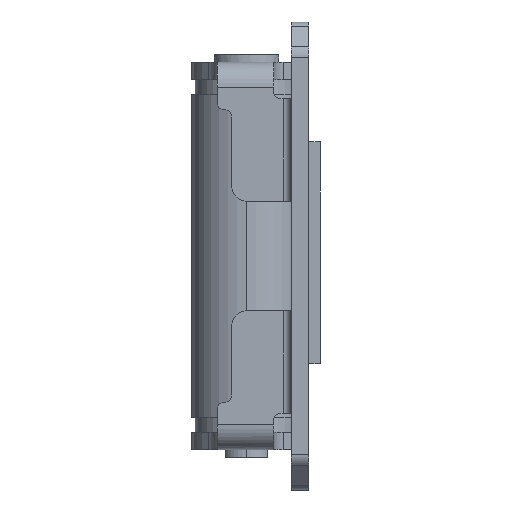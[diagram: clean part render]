
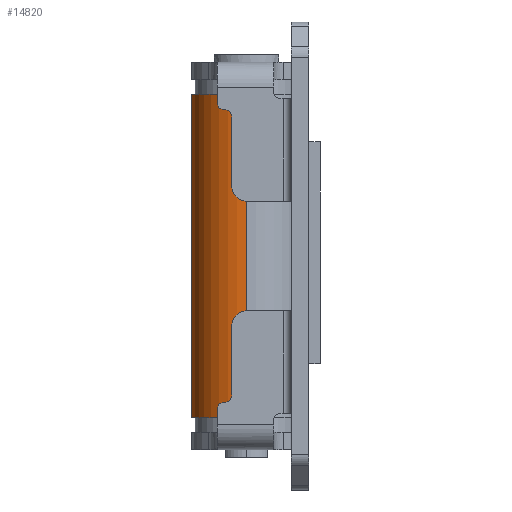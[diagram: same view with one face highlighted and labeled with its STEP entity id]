
A CAD part, left-side view. The second image highlights one B-rep face of the part: STEP entity #14820.
In plain terms, the highlighted cylindrical face has radius 3.75 mm (diameter 7.5 mm), a partial arc.
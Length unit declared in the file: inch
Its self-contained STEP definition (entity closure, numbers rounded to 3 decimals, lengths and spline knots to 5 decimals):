
#92 = CARTESIAN_POINT ( 'NONE',  ( 0.14764, 0.14764, -0.43504 ) ) ;
#248 = DIRECTION ( 'NONE',  ( 0., 0., 1. ) ) ;
#391 = ORIENTED_EDGE ( 'NONE', *, *, #2275, .T. ) ;
#518 = ORIENTED_EDGE ( 'NONE', *, *, #9654, .T. ) ;
#685 = ORIENTED_EDGE ( 'NONE', *, *, #18472, .T. ) ;
#726 = AXIS2_PLACEMENT_3D ( 'NONE', #6824, #18107, #11203 ) ;
#942 = DIRECTION ( 'NONE',  ( -1., 0., 0. ) ) ;
#1118 = VECTOR ( 'NONE', #6568, 39.37008 ) ;
#1258 = CARTESIAN_POINT ( 'NONE',  ( 0.12269, 0.22985, -0.08904 ) ) ;
#1318 = B_SPLINE_CURVE_WITH_KNOTS ( 'NONE', 3,
 ( #13972, #5463, #1258, #6963, #18564, #18462 ),
 .UNSPECIFIED., .F., .F.,
 ( 4, 2, 4 ),
 ( 0., 0.5, 1. ),
 .UNSPECIFIED. ) ;
#1463 = VERTEX_POINT ( 'NONE', #1875 ) ;
#1523 = EDGE_CURVE ( 'NONE', #1463, #13861, #14749, .T. ) ;
#1875 = CARTESIAN_POINT ( 'NONE',  ( -0.14764, 0.14764, 0.43504 ) ) ;
#1901 = ORIENTED_EDGE ( 'NONE', *, *, #4255, .T. ) ;
#1959 = VERTEX_POINT ( 'NONE', #12665 ) ;
#2074 = CYLINDRICAL_SURFACE ( 'NONE', #3627, 0.14764 ) ;
#2219 = CARTESIAN_POINT ( 'NONE',  ( 0.13156, 0.21465, 0.09843 ) ) ;
#2275 = EDGE_CURVE ( 'NONE', #12695, #16215, #11237, .T. ) ;
#2340 = EDGE_LOOP ( 'NONE', ( #16583, #4261, #391, #16769, #685, #1901, #6181, #7528, #518, #7997 ) ) ;
#2367 = CARTESIAN_POINT ( 'NONE',  ( 0.12145, 0.23159, 0.07874 ) ) ;
#2651 = CARTESIAN_POINT ( 'NONE',  ( 0.1292, 0.21928, 0.09843 ) ) ;
#2704 = DIRECTION ( 'NONE',  ( 1., 0., 0. ) ) ;
#2719 = DIRECTION ( 'NONE',  ( 0., 0., 1. ) ) ;
#3627 = AXIS2_PLACEMENT_3D ( 'NONE', #18318, #15310, #942 ) ;
#3681 = VECTOR ( 'NONE', #6168, 39.37008 ) ;
#3728 = CIRCLE ( 'NONE', #6109, 0.14764 ) ;
#3890 = LINE ( 'NONE', #3981, #7568 ) ;
#3981 = CARTESIAN_POINT ( 'NONE',  ( 0.12145, 0.23159, 0.09843 ) ) ;
#4059 = CARTESIAN_POINT ( 'NONE',  ( 0.12146, 0.23157, 0.08399 ) ) ;
#4255 = EDGE_CURVE ( 'NONE', #16654, #1959, #3890, .T. ) ;
#4261 = ORIENTED_EDGE ( 'NONE', *, *, #6857, .F. ) ;
#4639 = VERTEX_POINT ( 'NONE', #16594 ) ;
#4798 = DIRECTION ( 'NONE',  ( -1., 0., 0. ) ) ;
#5277 = CARTESIAN_POINT ( 'NONE',  ( 0.13156, 0.21465, 0.09843 ) ) ;
#5445 = DIRECTION ( 'NONE',  ( 0., 0., -1. ) ) ;
#5463 = CARTESIAN_POINT ( 'NONE',  ( 0.12146, 0.23157, -0.08399 ) ) ;
#5572 = EDGE_CURVE ( 'NONE', #10510, #13861, #3728, .T. ) ;
#5991 = DIRECTION ( 'NONE',  ( 0., 0., 1. ) ) ;
#6109 = AXIS2_PLACEMENT_3D ( 'NONE', #10163, #2719, #16904 ) ;
#6168 = DIRECTION ( 'NONE',  ( 0., 0., -1. ) ) ;
#6181 = ORIENTED_EDGE ( 'NONE', *, *, #15156, .T. ) ;
#6568 = DIRECTION ( 'NONE',  ( 0., 0., -1. ) ) ;
#6739 = B_SPLINE_CURVE_WITH_KNOTS ( 'NONE', 3,
 ( #5277, #2651, #16743, #9718, #4059, #2367 ),
 .UNSPECIFIED., .F., .F.,
 ( 4, 2, 4 ),
 ( 0., 0.5, 1. ),
 .UNSPECIFIED. ) ;
#6768 = CARTESIAN_POINT ( 'NONE',  ( 0.14764, 0.14764, 0.62992 ) ) ;
#6790 = CIRCLE ( 'NONE', #17311, 0.14764 ) ;
#6824 = CARTESIAN_POINT ( 'NONE',  ( 0., 0.14764, -0.09843 ) ) ;
#6857 = EDGE_CURVE ( 'NONE', #12695, #1463, #6790, .T. ) ;
#6963 = CARTESIAN_POINT ( 'NONE',  ( 0.12659, 0.22369, -0.09631 ) ) ;
#7528 = ORIENTED_EDGE ( 'NONE', *, *, #11886, .T. ) ;
#7568 = VECTOR ( 'NONE', #16571, 39.37008 ) ;
#7997 = ORIENTED_EDGE ( 'NONE', *, *, #5572, .T. ) ;
#8202 = CARTESIAN_POINT ( 'NONE',  ( -0.14764, 0.14764, -0.43504 ) ) ;
#8654 = CARTESIAN_POINT ( 'NONE',  ( 0., 0.14764, 0.09843 ) ) ;
#8855 = CIRCLE ( 'NONE', #726, 0.14764 ) ;
#9142 = VERTEX_POINT ( 'NONE', #12493 ) ;
#9654 = EDGE_CURVE ( 'NONE', #4639, #10510, #13571, .T. ) ;
#9718 = CARTESIAN_POINT ( 'NONE',  ( 0.12269, 0.22985, 0.08905 ) ) ;
#10163 = CARTESIAN_POINT ( 'NONE',  ( 0., 0.14764, -0.43504 ) ) ;
#10510 = VERTEX_POINT ( 'NONE', #92 ) ;
#11203 = DIRECTION ( 'NONE',  ( -1., 0., 0. ) ) ;
#11237 = LINE ( 'NONE', #6768, #16681 ) ;
#11307 = VERTEX_POINT ( 'NONE', #2219 ) ;
#11886 = EDGE_CURVE ( 'NONE', #9142, #4639, #8855, .T. ) ;
#12493 = CARTESIAN_POINT ( 'NONE',  ( 0.13156, 0.21465, -0.09843 ) ) ;
#12665 = CARTESIAN_POINT ( 'NONE',  ( 0.12145, 0.23159, -0.07874 ) ) ;
#12695 = VERTEX_POINT ( 'NONE', #18310 ) ;
#12769 = EDGE_CURVE ( 'NONE', #16215, #11307, #13755, .T. ) ;
#12916 = AXIS2_PLACEMENT_3D ( 'NONE', #8654, #248, #2704 ) ;
#13078 = CARTESIAN_POINT ( 'NONE',  ( -0.14764, 0.14764, 0.62992 ) ) ;
#13190 = CARTESIAN_POINT ( 'NONE',  ( 0., 0.14764, 0.43504 ) ) ;
#13571 = LINE ( 'NONE', #18238, #1118 ) ;
#13755 = CIRCLE ( 'NONE', #12916, 0.14764 ) ;
#13861 = VERTEX_POINT ( 'NONE', #8202 ) ;
#13972 = CARTESIAN_POINT ( 'NONE',  ( 0.12145, 0.23159, -0.07874 ) ) ;
#14749 = LINE ( 'NONE', #13078, #3681 ) ;
#14820 = ADVANCED_FACE ( 'NONE', ( #16341 ), #2074, .T. ) ;
#15156 = EDGE_CURVE ( 'NONE', #1959, #9142, #1318, .T. ) ;
#15310 = DIRECTION ( 'NONE',  ( 0., 0., -1. ) ) ;
#15944 = CARTESIAN_POINT ( 'NONE',  ( 0.14764, 0.14764, 0.09843 ) ) ;
#16215 = VERTEX_POINT ( 'NONE', #15944 ) ;
#16341 = FACE_OUTER_BOUND ( 'NONE', #2340, .T. ) ;
#16571 = DIRECTION ( 'NONE',  ( 0., 0., -1. ) ) ;
#16583 = ORIENTED_EDGE ( 'NONE', *, *, #1523, .F. ) ;
#16594 = CARTESIAN_POINT ( 'NONE',  ( 0.14764, 0.14764, -0.09843 ) ) ;
#16654 = VERTEX_POINT ( 'NONE', #16672 ) ;
#16672 = CARTESIAN_POINT ( 'NONE',  ( 0.12145, 0.23159, 0.07874 ) ) ;
#16681 = VECTOR ( 'NONE', #5445, 39.37008 ) ;
#16743 = CARTESIAN_POINT ( 'NONE',  ( 0.1266, 0.22368, 0.09632 ) ) ;
#16769 = ORIENTED_EDGE ( 'NONE', *, *, #12769, .T. ) ;
#16904 = DIRECTION ( 'NONE',  ( -1., 0., 0. ) ) ;
#17311 = AXIS2_PLACEMENT_3D ( 'NONE', #13190, #5991, #4798 ) ;
#18107 = DIRECTION ( 'NONE',  ( 0., 0., -1. ) ) ;
#18238 = CARTESIAN_POINT ( 'NONE',  ( 0.14764, 0.14764, 0.62992 ) ) ;
#18310 = CARTESIAN_POINT ( 'NONE',  ( 0.14764, 0.14764, 0.43504 ) ) ;
#18318 = CARTESIAN_POINT ( 'NONE',  ( 0., 0.14764, 0.62992 ) ) ;
#18462 = CARTESIAN_POINT ( 'NONE',  ( 0.13156, 0.21465, -0.09843 ) ) ;
#18472 = EDGE_CURVE ( 'NONE', #11307, #16654, #6739, .T. ) ;
#18564 = CARTESIAN_POINT ( 'NONE',  ( 0.1292, 0.21928, -0.09843 ) ) ;
